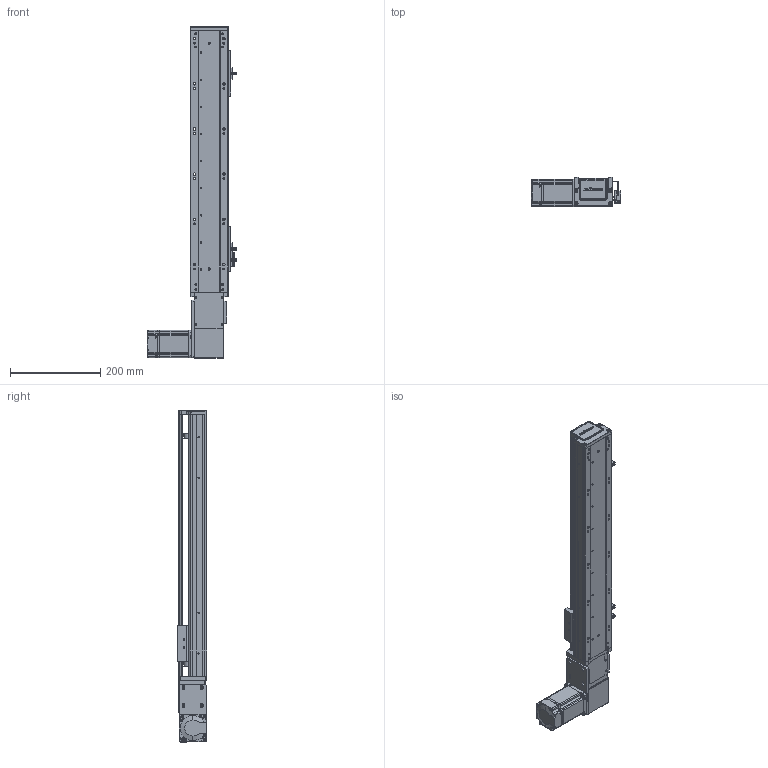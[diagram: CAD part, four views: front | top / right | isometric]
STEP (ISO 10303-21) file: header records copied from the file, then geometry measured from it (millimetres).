
FILE_DESCRIPTION (( 'STEP AP203' ), '1' );
FILE_NAME ('RY80-T-300-LK.SLDASM_400.step', '2021-03-01T01:58:03', ( '盈信电脑' ), ( '东莞市道滘镇水果街19号' ), 'SwSTEP 2.0', 'SolidWorks 2012', '' );
FILE_SCHEMA (( 'CONFIG_CONTROL_DESIGN' ));
Products named in the file (19): RY80-T-300-LK.SLDASM_400; 侂狟200W萇儂; RY80-T-M4蹟翐; RY80-T萇儂假蚾啣; RY80-T肮祭謫俋欶; 滅袉蝶18-10; 1; RY80-T翋肮祭謫裔啣; RY80-T粣創揤踡輸; RY80-T肮祭湍揤輸1; RY80-T-翋肮祭謫釱; RY80-T肮祭湍揤輸2; RY80俋离覜茼え; RY80-T綴裔啣; 672嫖萇羲壽假蚾釱; 覜茼ん672; RY80-T-300-LK倰第菁釱_400; RY80-T肮祭謫臏賑輸; RY80-T-300-LK倰第奻裔啣_400
Assembly tree (24 placements, depth 3):
  RY80-T-300-LK.SLDASM_400
    RY80-T-300-LK倰第菁釱_400
    RY80-T肮祭謫臏賑輸
    RY80-T-300-LK倰第奻裔啣_400
    RY80-T綴裔啣
    672嫖萇羲壽假蚾釱  x2
    覜茼ん672  x3
    RY80俋离覜茼え
    RY80-T-翋肮祭謫釱
    RY80-T肮祭湍揤輸1
    RY80-T肮祭湍揤輸2
    RY80-T粣創揤踡輸
    RY80-T翋肮祭謫裔啣  x2
    滅袉蝶18-10  x2
    侂狟200W萇儂
      1
    RY80-T肮祭謫俋欶
    RY80-T萇儂假蚾啣
    RY80-T-M4蹟翐  x2
Bounding box: 198.7 x 65 x 735 mm (x, y, z)
Volume: 1400789.4 mm3; surface area: 559636.5 mm2
Topology: 23 solids, 23 shells, 2406 faces, 6627 edges, 4305 vertices
Faces by surface type: plane 1312, cylinder 891, cone 147, bspline 56
Entity records: 75013 total; most frequent: CARTESIAN_POINT 17914, ORIENTED_EDGE 11698, DIRECTION 11024, EDGE_CURVE 5849, VERTEX_POINT 3846, AXIS2_PLACEMENT_3D 3684, LINE 3656, VECTOR 3656
